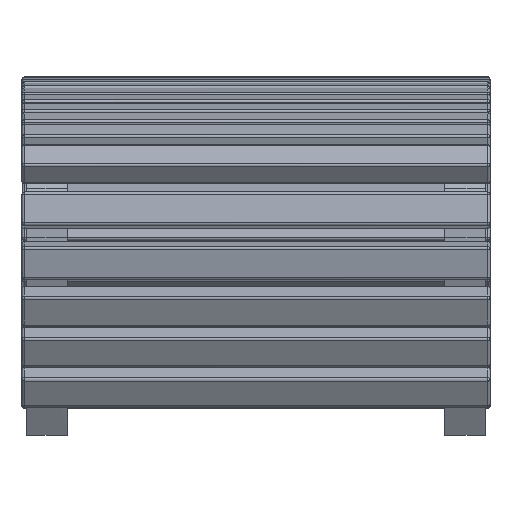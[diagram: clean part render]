
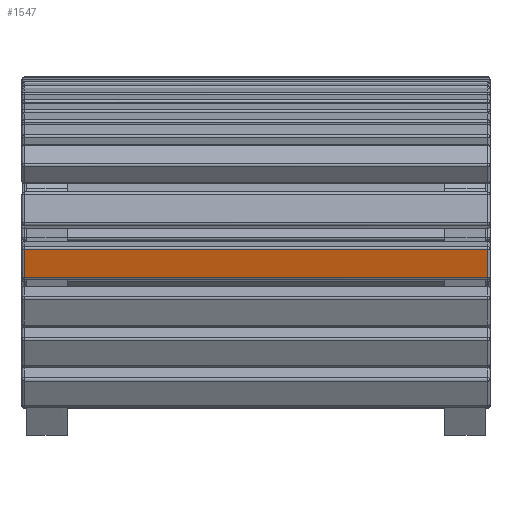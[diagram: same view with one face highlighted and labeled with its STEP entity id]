
A CAD part, front view. The second image highlights one B-rep face of the part: STEP entity #1547.
In plain terms, the highlighted planar face has unit normal (0, -0.972, -0.236).
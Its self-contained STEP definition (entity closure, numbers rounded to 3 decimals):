
#1547=ADVANCED_FACE('',(#2397),#11817,.T.);
#2397=FACE_OUTER_BOUND('',#3247,.T.);
#3247=EDGE_LOOP('',(#4906,#4907,#4908,#4909));
#4906=ORIENTED_EDGE('',*,*,#8050,.F.);
#4907=ORIENTED_EDGE('',*,*,#8051,.F.);
#4908=ORIENTED_EDGE('',*,*,#8052,.F.);
#4909=ORIENTED_EDGE('',*,*,#8053,.F.);
#8050=EDGE_CURVE('',#10955,#10954,#9802,.T.);
#8051=EDGE_CURVE('',#10956,#10955,#9803,.T.);
#8052=EDGE_CURVE('',#10957,#10956,#9804,.T.);
#8053=EDGE_CURVE('',#10954,#10957,#9805,.T.);
#9802=B_SPLINE_CURVE_WITH_KNOTS('',1,(#15094,#15095),.UNSPECIFIED.,.F.,
 .F.,(2,2),(-2.85,0.75),.UNSPECIFIED.);
#9803=B_SPLINE_CURVE_WITH_KNOTS('',1,(#15096,#15097),.UNSPECIFIED.,.F.,
 .F.,(2,2),(-43.2,14.2),.UNSPECIFIED.);
#9804=B_SPLINE_CURVE_WITH_KNOTS('',1,(#15098,#15099),.UNSPECIFIED.,.F.,
 .F.,(2,2),(-2.85,0.75),.UNSPECIFIED.);
#9805=B_SPLINE_CURVE_WITH_KNOTS('',1,(#15100,#15101),.UNSPECIFIED.,.F.,
 .F.,(2,2),(-43.2,14.2),.UNSPECIFIED.);
#10954=VERTEX_POINT('',#15066);
#10955=VERTEX_POINT('',#15067);
#10956=VERTEX_POINT('',#15068);
#10957=VERTEX_POINT('',#15069);
#11817=PLANE('',#12215);
#12215=AXIS2_PLACEMENT_3D('',#14913,#12596,$);
#12596=DIRECTION('',(0.,-0.972,-0.236));
#14913=CARTESIAN_POINT('',(577.01,10.245,194.925));
#15066=CARTESIAN_POINT('',(3.,1.734,229.915));
#15067=CARTESIAN_POINT('',(3.,10.242,194.935));
#15068=CARTESIAN_POINT('',(577.,10.242,194.935));
#15069=CARTESIAN_POINT('',(577.,1.734,229.915));
#15094=CARTESIAN_POINT('',(3.,10.242,194.935));
#15095=CARTESIAN_POINT('',(3.,1.734,229.915));
#15096=CARTESIAN_POINT('',(577.,10.242,194.935));
#15097=CARTESIAN_POINT('',(3.,10.242,194.935));
#15098=CARTESIAN_POINT('',(577.,1.734,229.915));
#15099=CARTESIAN_POINT('',(577.,10.242,194.935));
#15100=CARTESIAN_POINT('',(3.,1.734,229.915));
#15101=CARTESIAN_POINT('',(577.,1.734,229.915));
